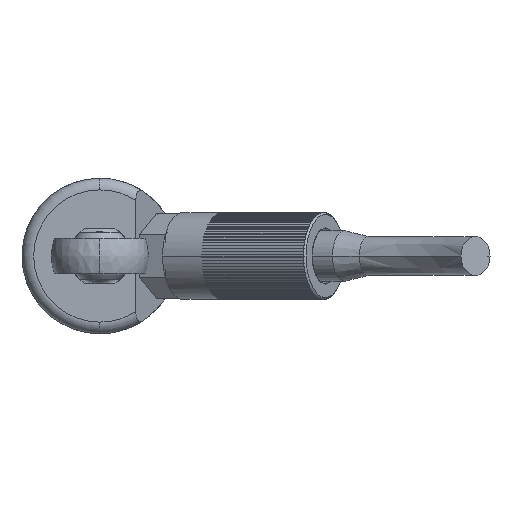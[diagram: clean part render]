
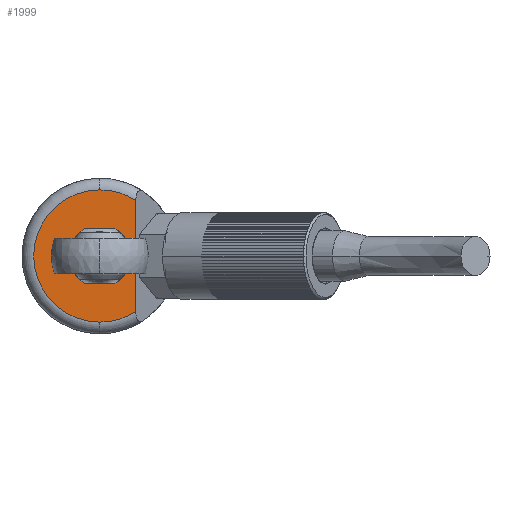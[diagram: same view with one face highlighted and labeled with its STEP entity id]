
A CAD part, left-side view. The second image highlights one B-rep face of the part: STEP entity #1999.
In plain terms, the highlighted planar face has unit normal (-1, 0, 0).
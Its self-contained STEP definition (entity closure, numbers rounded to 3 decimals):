
#610 = CARTESIAN_POINT ( 'NONE',  ( -69.98, 0., 0. ) ) ;
#728 = DIRECTION ( 'NONE',  ( -1., 0., 0. ) ) ;
#757 = ORIENTED_EDGE ( 'NONE', *, *, #9533, .T. ) ;
#816 = DIRECTION ( 'NONE',  ( -1., 0., 0. ) ) ;
#883 = AXIS2_PLACEMENT_3D ( 'NONE', #3244, #6239, #9718 ) ;
#885 = DIRECTION ( 'NONE',  ( 0., 0., -1. ) ) ;
#890 = DIRECTION ( 'NONE',  ( -1., 0., 0. ) ) ;
#978 = EDGE_CURVE ( 'NONE', #12244, #2741, #10573, .T. ) ;
#1212 = AXIS2_PLACEMENT_3D ( 'NONE', #6559, #1279, #4607 ) ;
#1279 = DIRECTION ( 'NONE',  ( 1., 0., 0. ) ) ;
#1508 = CARTESIAN_POINT ( 'NONE',  ( -69.98, 0., 0. ) ) ;
#1584 = CIRCLE ( 'NONE', #2479, 17. ) ;
#1932 = CARTESIAN_POINT ( 'NONE',  ( -69.98, 0., 0. ) ) ;
#1999 = ADVANCED_FACE ( 'NONE', ( #12970, #4399 ), #3364, .F. ) ;
#2204 = VERTEX_POINT ( 'NONE', #10642 ) ;
#2208 = DIRECTION ( 'NONE',  ( 0., 0., 1. ) ) ;
#2292 = CARTESIAN_POINT ( 'NONE',  ( -69.98, 0., -17. ) ) ;
#2343 = DIRECTION ( 'NONE',  ( 0., 0., -1. ) ) ;
#2479 = AXIS2_PLACEMENT_3D ( 'NONE', #610, #816, #885 ) ;
#2486 = CARTESIAN_POINT ( 'NONE',  ( -69.98, 0., 0. ) ) ;
#2635 = ORIENTED_EDGE ( 'NONE', *, *, #978, .T. ) ;
#2676 = AXIS2_PLACEMENT_3D ( 'NONE', #1508, #11119, #2343 ) ;
#2741 = VERTEX_POINT ( 'NONE', #3216 ) ;
#3216 = CARTESIAN_POINT ( 'NONE',  ( -69.98, -9.26, 14.257 ) ) ;
#3244 = CARTESIAN_POINT ( 'NONE',  ( -69.98, 0., 0. ) ) ;
#3364 = PLANE ( 'NONE',  #1212 ) ;
#4077 = DIRECTION ( 'NONE',  ( 0., 0., -1. ) ) ;
#4240 = AXIS2_PLACEMENT_3D ( 'NONE', #1932, #890, #4077 ) ;
#4399 = FACE_OUTER_BOUND ( 'NONE', #5672, .T. ) ;
#4607 = DIRECTION ( 'NONE',  ( 0., 0., -1. ) ) ;
#5418 = VECTOR ( 'NONE', #2208, 1000. ) ;
#5672 = EDGE_LOOP ( 'NONE', ( #7404, #8737, #757, #2635 ) ) ;
#5736 = CARTESIAN_POINT ( 'NONE',  ( -69.98, -9.26, -14.257 ) ) ;
#6044 = CIRCLE ( 'NONE', #11392, 17. ) ;
#6239 = DIRECTION ( 'NONE',  ( 1., 0., 0. ) ) ;
#6559 = CARTESIAN_POINT ( 'NONE',  ( -69.98, 0., 0. ) ) ;
#6941 = VERTEX_POINT ( 'NONE', #10840 ) ;
#7239 = ORIENTED_EDGE ( 'NONE', *, *, #12205, .T. ) ;
#7404 = ORIENTED_EDGE ( 'NONE', *, *, #9148, .T. ) ;
#7541 = CIRCLE ( 'NONE', #2676, 3.4 ) ;
#8481 = CARTESIAN_POINT ( 'NONE',  ( -69.98, -9.26, -20. ) ) ;
#8737 = ORIENTED_EDGE ( 'NONE', *, *, #13144, .T. ) ;
#9148 = EDGE_CURVE ( 'NONE', #2741, #11275, #1584, .T. ) ;
#9151 = CIRCLE ( 'NONE', #4240, 17. ) ;
#9533 = EDGE_CURVE ( 'NONE', #10050, #12244, #6044, .T. ) ;
#9718 = DIRECTION ( 'NONE',  ( 0., 0., -1. ) ) ;
#9754 = ORIENTED_EDGE ( 'NONE', *, *, #12285, .T. ) ;
#10050 = VERTEX_POINT ( 'NONE', #2292 ) ;
#10573 = LINE ( 'NONE', #8481, #5418 ) ;
#10642 = CARTESIAN_POINT ( 'NONE',  ( -69.98, 0., -3.4 ) ) ;
#10840 = CARTESIAN_POINT ( 'NONE',  ( -69.98, 0., 3.4 ) ) ;
#10895 = CIRCLE ( 'NONE', #883, 3.4 ) ;
#11119 = DIRECTION ( 'NONE',  ( 1., 0., 0. ) ) ;
#11275 = VERTEX_POINT ( 'NONE', #13702 ) ;
#11392 = AXIS2_PLACEMENT_3D ( 'NONE', #2486, #728, #13268 ) ;
#11462 = EDGE_LOOP ( 'NONE', ( #7239, #9754 ) ) ;
#12205 = EDGE_CURVE ( 'NONE', #2204, #6941, #10895, .T. ) ;
#12244 = VERTEX_POINT ( 'NONE', #5736 ) ;
#12285 = EDGE_CURVE ( 'NONE', #6941, #2204, #7541, .T. ) ;
#12970 = FACE_BOUND ( 'NONE', #11462, .T. ) ;
#13144 = EDGE_CURVE ( 'NONE', #11275, #10050, #9151, .T. ) ;
#13268 = DIRECTION ( 'NONE',  ( 0., 0., -1. ) ) ;
#13702 = CARTESIAN_POINT ( 'NONE',  ( -69.98, 0., 17. ) ) ;
